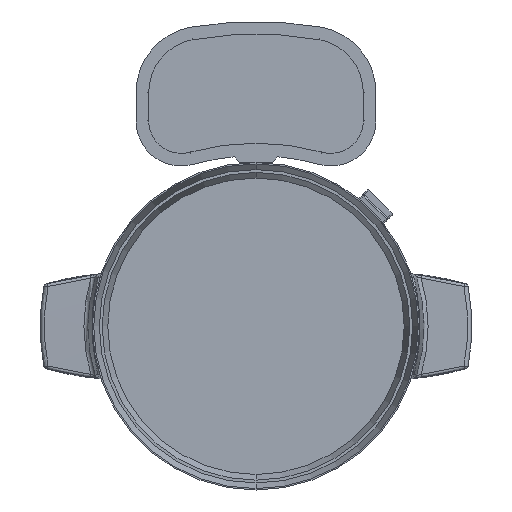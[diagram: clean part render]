
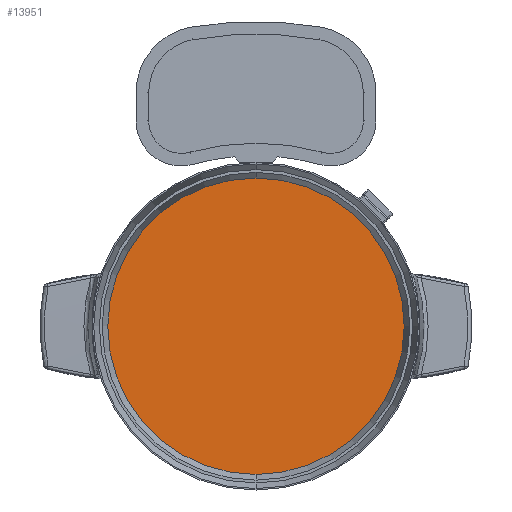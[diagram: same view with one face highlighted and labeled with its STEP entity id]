
A CAD part, front view. The second image highlights one B-rep face of the part: STEP entity #13951.
In plain terms, the highlighted planar face has unit normal (0, -1, 0).
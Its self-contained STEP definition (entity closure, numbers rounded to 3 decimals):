
#934 = DIRECTION ( 'NONE',  ( 0., 0., 1. ) ) ;
#1492 = PLANE ( 'NONE',  #18653 ) ;
#5482 = VERTEX_POINT ( 'NONE', #19541 ) ;
#5952 = ORIENTED_EDGE ( 'NONE', *, *, #12842, .F. ) ;
#6243 = DIRECTION ( 'NONE',  ( 0., 0., 1. ) ) ;
#7676 = EDGE_LOOP ( 'NONE', ( #5952, #29550 ) ) ;
#9483 = AXIS2_PLACEMENT_3D ( 'NONE', #24437, #17530, #934 ) ;
#9627 = VERTEX_POINT ( 'NONE', #12299 ) ;
#12299 = CARTESIAN_POINT ( 'NONE',  ( 0., 20., -105. ) ) ;
#12842 = EDGE_CURVE ( 'NONE', #9627, #5482, #17608, .T. ) ;
#13951 = ADVANCED_FACE ( 'NONE', ( #18294 ), #1492, .T. ) ;
#15937 = DIRECTION ( 'NONE',  ( 0., 0., -1. ) ) ;
#17530 = DIRECTION ( 'NONE',  ( 0., 1., 0. ) ) ;
#17608 = CIRCLE ( 'NONE', #22133, 105. ) ;
#18294 = FACE_OUTER_BOUND ( 'NONE', #7676, .T. ) ;
#18446 = CARTESIAN_POINT ( 'NONE',  ( -105., 20., 0. ) ) ;
#18653 = AXIS2_PLACEMENT_3D ( 'NONE', #18446, #27796, #15937 ) ;
#19541 = CARTESIAN_POINT ( 'NONE',  ( 0., 20., 105. ) ) ;
#20253 = DIRECTION ( 'NONE',  ( 0., 1., 0. ) ) ;
#22133 = AXIS2_PLACEMENT_3D ( 'NONE', #27419, #20253, #6243 ) ;
#22434 = CIRCLE ( 'NONE', #9483, 105. ) ;
#24437 = CARTESIAN_POINT ( 'NONE',  ( 0., 20., 0. ) ) ;
#27096 = EDGE_CURVE ( 'NONE', #5482, #9627, #22434, .T. ) ;
#27419 = CARTESIAN_POINT ( 'NONE',  ( 0., 20., 0. ) ) ;
#27796 = DIRECTION ( 'NONE',  ( 0., -1., 0. ) ) ;
#29550 = ORIENTED_EDGE ( 'NONE', *, *, #27096, .F. ) ;
